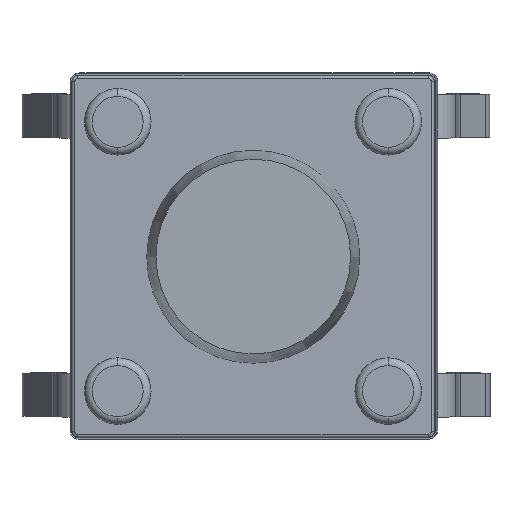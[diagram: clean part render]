
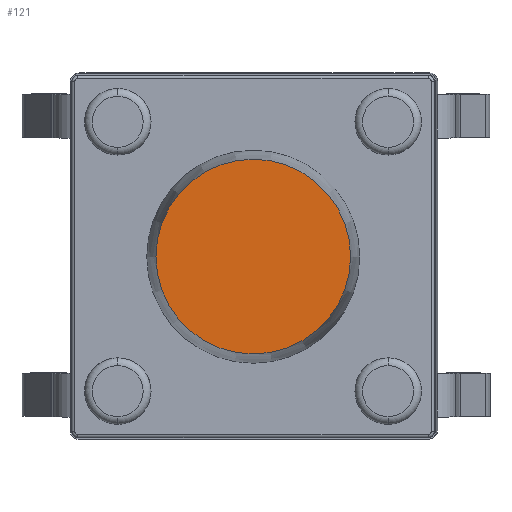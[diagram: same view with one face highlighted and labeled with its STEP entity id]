
A CAD part, top view. The second image highlights one B-rep face of the part: STEP entity #121.
In plain terms, the highlighted planar face has unit normal (0, 0, 1).
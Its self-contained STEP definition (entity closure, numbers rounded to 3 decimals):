
#58 = CONICAL_SURFACE('',#59,1.75,0.115);
#59 = AXIS2_PLACEMENT_3D('',#60,#61,#62);
#60 = CARTESIAN_POINT('',(-6.025,-0.033,3.65));
#61 = DIRECTION('',(-0.,-0.,-1.));
#62 = DIRECTION('',(1.,0.,0.));
#75 = VERTEX_POINT('',#76);
#76 = CARTESIAN_POINT('',(-4.425,-0.033,4.95));
#94 = EDGE_CURVE('',#75,#75,#95,.T.);
#95 = SURFACE_CURVE('',#96,(#101,#108),.PCURVE_S1.);
#96 = CIRCLE('',#97,1.6);
#97 = AXIS2_PLACEMENT_3D('',#98,#99,#100);
#98 = CARTESIAN_POINT('',(-6.025,-0.033,4.95));
#99 = DIRECTION('',(0.,0.,1.));
#100 = DIRECTION('',(1.,0.,0.));
#101 = PCURVE('',#58,#102);
#102 = DEFINITIONAL_REPRESENTATION('',(#103),#107);
#103 = LINE('',#104,#105);
#104 = CARTESIAN_POINT('',(-0.,-1.3));
#105 = VECTOR('',#106,1.);
#106 = DIRECTION('',(-1.,-0.));
#107 = ( GEOMETRIC_REPRESENTATION_CONTEXT(2) 
PARAMETRIC_REPRESENTATION_CONTEXT() REPRESENTATION_CONTEXT('2D SPACE',''
  ) );
#108 = PCURVE('',#109,#114);
#109 = PLANE('',#110);
#110 = AXIS2_PLACEMENT_3D('',#111,#112,#113);
#111 = CARTESIAN_POINT('',(-6.025,-0.033,4.95));
#112 = DIRECTION('',(0.,0.,1.));
#113 = DIRECTION('',(1.,0.,0.));
#114 = DEFINITIONAL_REPRESENTATION('',(#115),#119);
#115 = CIRCLE('',#116,1.6);
#116 = AXIS2_PLACEMENT_2D('',#117,#118);
#117 = CARTESIAN_POINT('',(0.,0.));
#118 = DIRECTION('',(1.,0.));
#119 = ( GEOMETRIC_REPRESENTATION_CONTEXT(2) 
PARAMETRIC_REPRESENTATION_CONTEXT() REPRESENTATION_CONTEXT('2D SPACE',''
  ) );
#121 = ADVANCED_FACE('',(#122),#109,.T.);
#122 = FACE_BOUND('',#123,.T.);
#123 = EDGE_LOOP('',(#124));
#124 = ORIENTED_EDGE('',*,*,#94,.T.);
